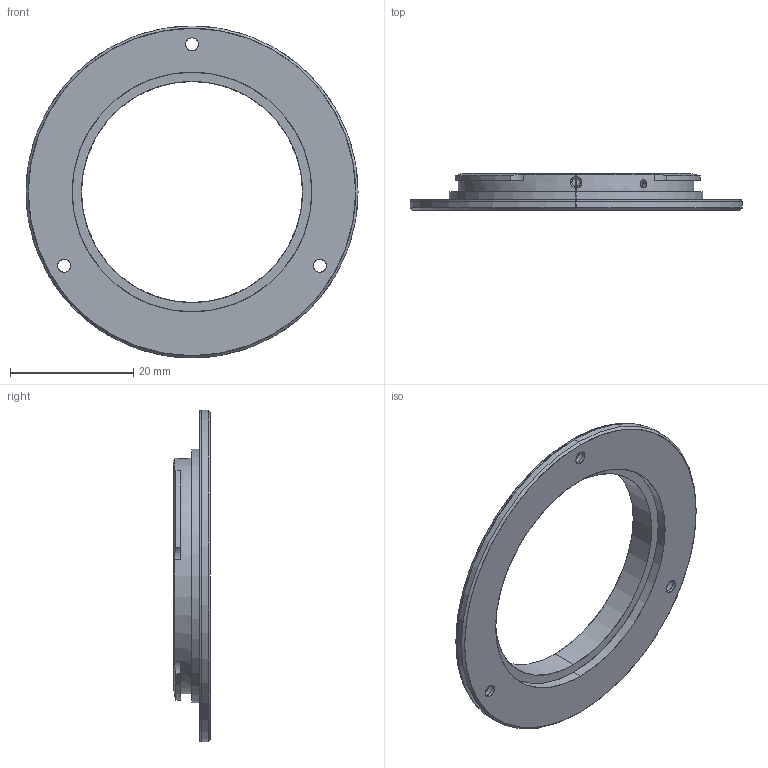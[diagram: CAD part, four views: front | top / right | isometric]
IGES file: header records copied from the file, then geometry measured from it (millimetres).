
Start section: SolidWorks IGES file using analytic representation for surfaces
Global section: file name: C:\Users\hobbes\Desktop\GRABCAD\u43 lens mounts\lens mount\u43 lens mount.IGS; native system: SolidWorks 2013; preprocessor: SolidWorks 2013; author: hobbes; date: 170316.023734; units: inch
Bounding box: 53.98 x 5.99 x 53.98 mm (x, y, z)
Surface area: 4181.4 mm2 (no closed solid volume)
Topology: 0 solids, 0 shells, 69 faces, 1893 edges, 1893 vertices
Faces by surface type: revolution 50, bspline 19
